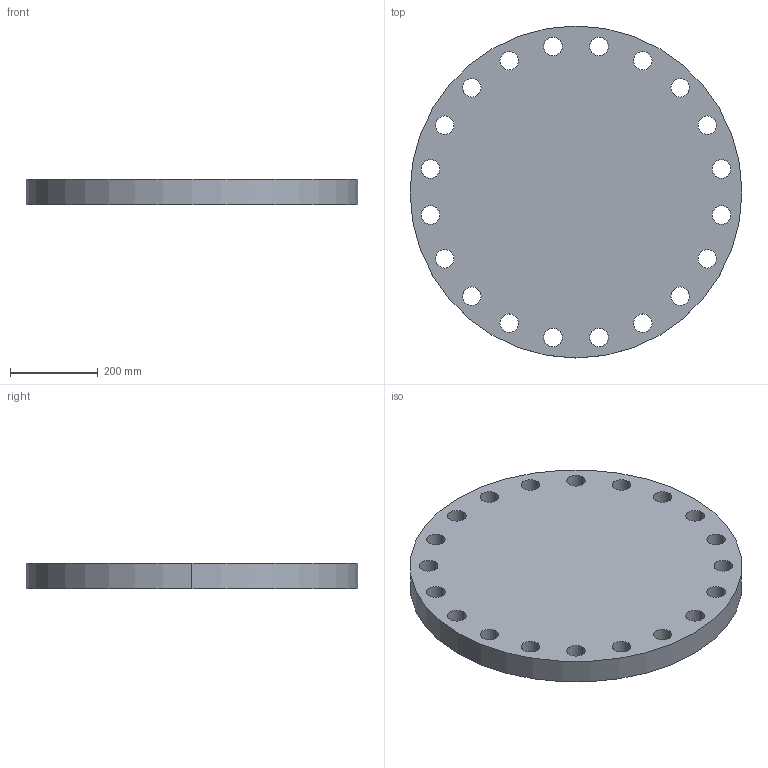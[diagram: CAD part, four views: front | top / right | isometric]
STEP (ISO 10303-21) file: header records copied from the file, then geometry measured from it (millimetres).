
FILE_DESCRIPTION (( 'STEP AP214' ), '1' );
FILE_NAME ('PN40 DN500 Type 05 - Type A Face.STEP', '2018-12-29T01:32:37', ( '' ), ( '' ), 'SwSTEP 2.0', 'SolidWorks 2019', '' );
FILE_SCHEMA (( 'AUTOMOTIVE_DESIGN' ));
Length unit declared in the file: millimetre
Products named in the file (1): PN40 DN500 Type 05 - Type A Face
Bounding box: 755 x 755 x 57 mm (x, y, z)
Volume: 23939301.2 mm3; surface area: 1125593.4 mm2
Topology: 1 solids, 1 shells, 44 faces, 126 edges, 84 vertices
Faces by surface type: cylinder 42, plane 2
Entity records: 1608 total; most frequent: DIRECTION 300, CARTESIAN_POINT 255, ORIENTED_EDGE 252, AXIS2_PLACEMENT_3D 129, EDGE_CURVE 126, CIRCLE 84, EDGE_LOOP 84, VERTEX_POINT 84
